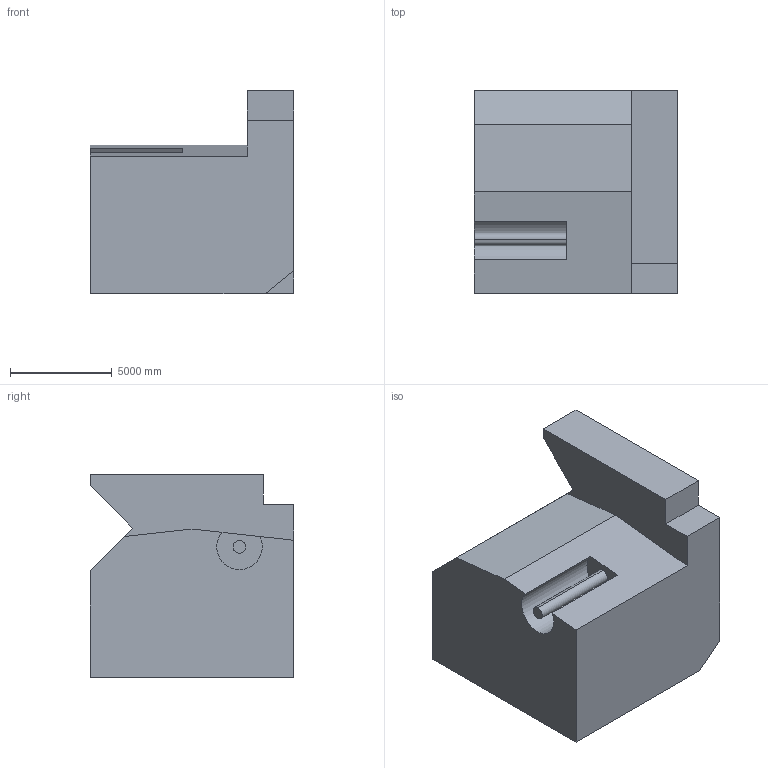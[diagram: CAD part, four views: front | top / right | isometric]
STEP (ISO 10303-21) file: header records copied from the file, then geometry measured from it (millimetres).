
FILE_DESCRIPTION (( 'STEP AP203' ), '1' );
FILE_NAME ('404.STEP', '2022-07-29T11:08:50', ( 'user' ), ( '' ), 'SwSTEP 2.0', 'SolidWorks 2021', '' );
FILE_SCHEMA (( 'CONFIG_CONTROL_DESIGN' ));
Length unit declared in the file: centimetre
Products named in the file (1): 404
Bounding box: 10000 x 10000 x 10000 mm (x, y, z)
Volume: 729945290704.9 mm3; surface area: 554739432.3 mm2
Topology: 1 solids, 1 shells, 21 faces, 54 edges, 36 vertices
Faces by surface type: plane 18, cylinder 3
Entity records: 711 total; most frequent: CARTESIAN_POINT 112, ORIENTED_EDGE 108, DIRECTION 104, EDGE_CURVE 54, VECTOR 48, LINE 48, VERTEX_POINT 36, AXIS2_PLACEMENT_3D 28
